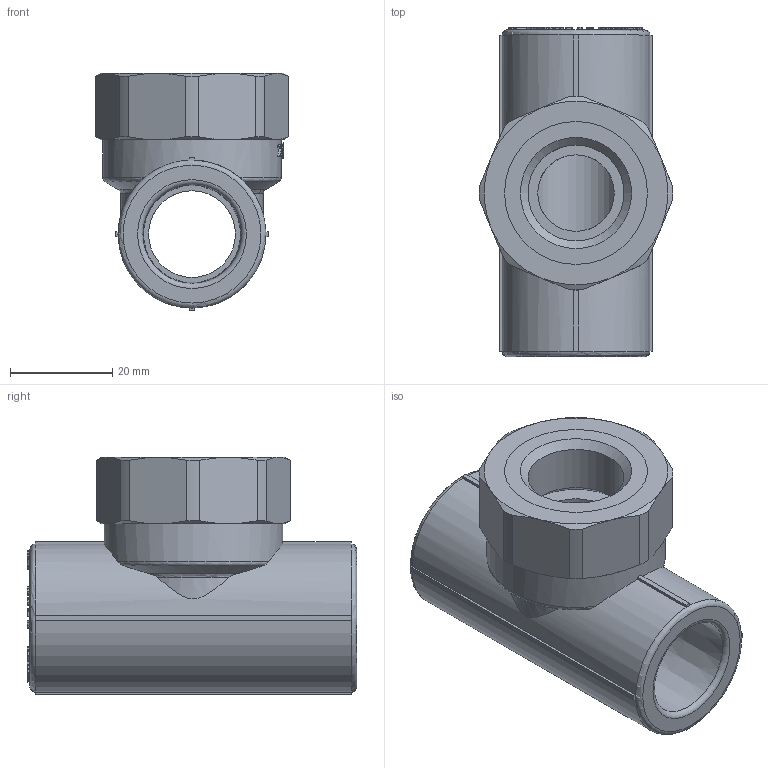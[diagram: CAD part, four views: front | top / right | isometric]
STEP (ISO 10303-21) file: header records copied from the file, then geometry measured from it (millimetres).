
FILE_DESCRIPTION(('STEP AP203'), '1');
FILE_NAME('ÂÐ.752241.034 - VTp.732.0.02004', '', ('UNSPECIFIED'), ('UNSPECIFIED'), 'C3D Converter', 'C3D Toolkit', '');
FILE_SCHEMA(('CONFIG_CONTROL_DESIGN'));
Length unit declared in the file: millimetre
Products named in the file (4): ВР.752241.034; ВР.302639.014.000; ВР.713661.001
Assembly tree (3 placements, depth 3):
  ВР.752241.034
    ВР.302639.014.000
      ВР.713661.001
      (unnamed)
Bounding box: 37.99 x 64.5 x 46.5 mm (x, y, z)
Volume: 40670.1 mm3; surface area: 21162.7 mm2
Topology: 3 solids, 3 shells, 881 faces, 2382 edges, 1578 vertices
Faces by surface type: extrusion 428, plane 350, cylinder 71, cone 19, torus 13
Full cylindrical faces by diameter (mm): 15 x1, 17 x1, 18.8 x1, 21.5 x2, 24 x8, 28 x10, 35 x1
Entity records: 31329 total; most frequent: CARTESIAN_POINT 10939, ORIENTED_EDGE 4670, DIRECTION 2886, EDGE_CURVE 2335, VECTOR 1606, VERTEX_POINT 1569, B_SPLINE_CURVE_WITH_KNOTS 1330, LINE 1178
